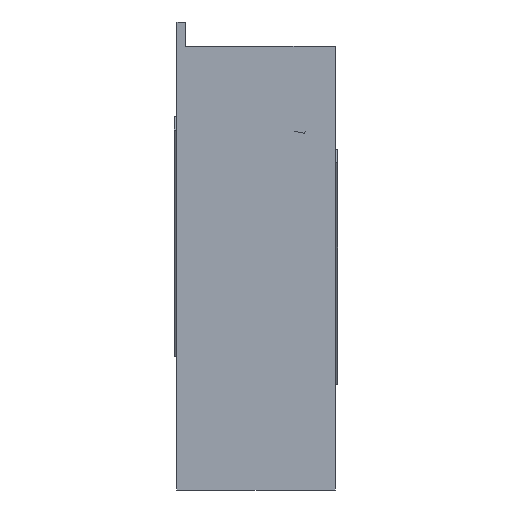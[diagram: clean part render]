
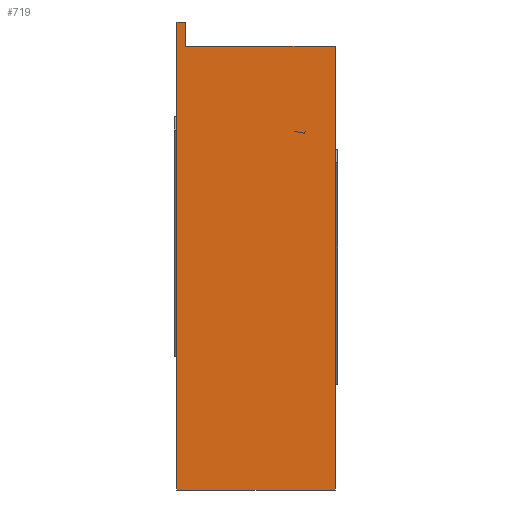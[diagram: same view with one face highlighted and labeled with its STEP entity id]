
A CAD part, left-side view. The second image highlights one B-rep face of the part: STEP entity #719.
In plain terms, the highlighted planar face has unit normal (-1, 0, 0).
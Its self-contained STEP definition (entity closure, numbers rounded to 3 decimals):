
#99 = PLANE('',#100);
#100 = AXIS2_PLACEMENT_3D('',#101,#102,#103);
#101 = CARTESIAN_POINT('',(0.,-8.99,0.));
#102 = DIRECTION('',(-0.,1.,0.));
#103 = DIRECTION('',(0.,0.,1.));
#155 = PLANE('',#156);
#156 = AXIS2_PLACEMENT_3D('',#157,#158,#159);
#157 = CARTESIAN_POINT('',(111.802,44.746,
    65.195));
#158 = DIRECTION('',(0.,-1.,0.));
#159 = DIRECTION('',(1.,0.,0.));
#405 = PLANE('',#406);
#406 = AXIS2_PLACEMENT_3D('',#407,#408,#409);
#407 = CARTESIAN_POINT('',(0.,-8.99,159.735));
#408 = DIRECTION('',(0.,0.,1.));
#409 = DIRECTION('',(1.,0.,-0.));
#648 = EDGE_CURVE('',#649,#651,#653,.T.);
#649 = VERTEX_POINT('',#650);
#650 = CARTESIAN_POINT('',(0.,-8.99,159.735));
#651 = VERTEX_POINT('',#652);
#652 = CARTESIAN_POINT('',(0.,44.746,159.735));
#653 = SURFACE_CURVE('',#654,(#658,#665),.PCURVE_S1.);
#654 = LINE('',#655,#656);
#655 = CARTESIAN_POINT('',(0.,-8.99,159.735));
#656 = VECTOR('',#657,1.);
#657 = DIRECTION('',(-0.,1.,0.));
#658 = PCURVE('',#405,#659);
#659 = DEFINITIONAL_REPRESENTATION('',(#660),#664);
#660 = LINE('',#661,#662);
#661 = CARTESIAN_POINT('',(0.,0.));
#662 = VECTOR('',#663,1.);
#663 = DIRECTION('',(0.,1.));
#664 = ( GEOMETRIC_REPRESENTATION_CONTEXT(2) 
PARAMETRIC_REPRESENTATION_CONTEXT() REPRESENTATION_CONTEXT('2D SPACE',''
  ) );
#665 = PCURVE('',#666,#671);
#666 = PLANE('',#667);
#667 = AXIS2_PLACEMENT_3D('',#668,#669,#670);
#668 = CARTESIAN_POINT('',(0.,44.746,168.491));
#669 = DIRECTION('',(-1.,-0.,-0.));
#670 = DIRECTION('',(0.,0.,-1.));
#671 = DEFINITIONAL_REPRESENTATION('',(#672),#676);
#672 = LINE('',#673,#674);
#673 = CARTESIAN_POINT('',(8.756,53.735));
#674 = VECTOR('',#675,1.);
#675 = DIRECTION('',(0.,-1.));
#676 = ( GEOMETRIC_REPRESENTATION_CONTEXT(2) 
PARAMETRIC_REPRESENTATION_CONTEXT() REPRESENTATION_CONTEXT('2D SPACE',''
  ) );
#719 = ADVANCED_FACE('',(#720),#666,.T.);
#720 = FACE_BOUND('',#721,.T.);
#721 = EDGE_LOOP('',(#722,#745,#746,#769,#797,#825));
#722 = ORIENTED_EDGE('',*,*,#723,.T.);
#723 = EDGE_CURVE('',#724,#649,#726,.T.);
#724 = VERTEX_POINT('',#725);
#725 = CARTESIAN_POINT('',(0.,-8.99,0.));
#726 = SURFACE_CURVE('',#727,(#731,#738),.PCURVE_S1.);
#727 = LINE('',#728,#729);
#728 = CARTESIAN_POINT('',(0.,-8.99,0.));
#729 = VECTOR('',#730,1.);
#730 = DIRECTION('',(0.,0.,1.));
#731 = PCURVE('',#666,#732);
#732 = DEFINITIONAL_REPRESENTATION('',(#733),#737);
#733 = LINE('',#734,#735);
#734 = CARTESIAN_POINT('',(168.491,53.735));
#735 = VECTOR('',#736,1.);
#736 = DIRECTION('',(-1.,0.));
#737 = ( GEOMETRIC_REPRESENTATION_CONTEXT(2) 
PARAMETRIC_REPRESENTATION_CONTEXT() REPRESENTATION_CONTEXT('2D SPACE',''
  ) );
#738 = PCURVE('',#99,#739);
#739 = DEFINITIONAL_REPRESENTATION('',(#740),#744);
#740 = LINE('',#741,#742);
#741 = CARTESIAN_POINT('',(0.,0.));
#742 = VECTOR('',#743,1.);
#743 = DIRECTION('',(1.,0.));
#744 = ( GEOMETRIC_REPRESENTATION_CONTEXT(2) 
PARAMETRIC_REPRESENTATION_CONTEXT() REPRESENTATION_CONTEXT('2D SPACE',''
  ) );
#745 = ORIENTED_EDGE('',*,*,#648,.T.);
#746 = ORIENTED_EDGE('',*,*,#747,.F.);
#747 = EDGE_CURVE('',#748,#651,#750,.T.);
#748 = VERTEX_POINT('',#749);
#749 = CARTESIAN_POINT('',(0.,44.746,168.491));
#750 = SURFACE_CURVE('',#751,(#755,#762),.PCURVE_S1.);
#751 = LINE('',#752,#753);
#752 = CARTESIAN_POINT('',(0.,44.746,168.491));
#753 = VECTOR('',#754,1.);
#754 = DIRECTION('',(0.,0.,-1.));
#755 = PCURVE('',#666,#756);
#756 = DEFINITIONAL_REPRESENTATION('',(#757),#761);
#757 = LINE('',#758,#759);
#758 = CARTESIAN_POINT('',(0.,0.));
#759 = VECTOR('',#760,1.);
#760 = DIRECTION('',(1.,0.));
#761 = ( GEOMETRIC_REPRESENTATION_CONTEXT(2) 
PARAMETRIC_REPRESENTATION_CONTEXT() REPRESENTATION_CONTEXT('2D SPACE',''
  ) );
#762 = PCURVE('',#155,#763);
#763 = DEFINITIONAL_REPRESENTATION('',(#764),#768);
#764 = LINE('',#765,#766);
#765 = CARTESIAN_POINT('',(-111.802,103.296));
#766 = VECTOR('',#767,1.);
#767 = DIRECTION('',(0.,-1.));
#768 = ( GEOMETRIC_REPRESENTATION_CONTEXT(2) 
PARAMETRIC_REPRESENTATION_CONTEXT() REPRESENTATION_CONTEXT('2D SPACE',''
  ) );
#769 = ORIENTED_EDGE('',*,*,#770,.T.);
#770 = EDGE_CURVE('',#748,#771,#773,.T.);
#771 = VERTEX_POINT('',#772);
#772 = CARTESIAN_POINT('',(0.,47.946,168.491));
#773 = SURFACE_CURVE('',#774,(#778,#785),.PCURVE_S1.);
#774 = LINE('',#775,#776);
#775 = CARTESIAN_POINT('',(0.,44.746,168.491));
#776 = VECTOR('',#777,1.);
#777 = DIRECTION('',(-0.,1.,-0.));
#778 = PCURVE('',#666,#779);
#779 = DEFINITIONAL_REPRESENTATION('',(#780),#784);
#780 = LINE('',#781,#782);
#781 = CARTESIAN_POINT('',(0.,0.));
#782 = VECTOR('',#783,1.);
#783 = DIRECTION('',(0.,-1.));
#784 = ( GEOMETRIC_REPRESENTATION_CONTEXT(2) 
PARAMETRIC_REPRESENTATION_CONTEXT() REPRESENTATION_CONTEXT('2D SPACE',''
  ) );
#785 = PCURVE('',#786,#791);
#786 = PLANE('',#787);
#787 = AXIS2_PLACEMENT_3D('',#788,#789,#790);
#788 = CARTESIAN_POINT('',(254.178,44.746,
    75.978));
#789 = DIRECTION('',(0.342,0.,0.94));
#790 = DIRECTION('',(-0.94,0.,0.342));
#791 = DEFINITIONAL_REPRESENTATION('',(#792),#796);
#792 = LINE('',#793,#794);
#793 = CARTESIAN_POINT('',(270.49,0.));
#794 = VECTOR('',#795,1.);
#795 = DIRECTION('',(0.,-1.));
#796 = ( GEOMETRIC_REPRESENTATION_CONTEXT(2) 
PARAMETRIC_REPRESENTATION_CONTEXT() REPRESENTATION_CONTEXT('2D SPACE',''
  ) );
#797 = ORIENTED_EDGE('',*,*,#798,.T.);
#798 = EDGE_CURVE('',#771,#799,#801,.T.);
#799 = VERTEX_POINT('',#800);
#800 = CARTESIAN_POINT('',(0.,47.946,0.));
#801 = SURFACE_CURVE('',#802,(#806,#813),.PCURVE_S1.);
#802 = LINE('',#803,#804);
#803 = CARTESIAN_POINT('',(0.,47.946,168.491));
#804 = VECTOR('',#805,1.);
#805 = DIRECTION('',(0.,0.,-1.));
#806 = PCURVE('',#666,#807);
#807 = DEFINITIONAL_REPRESENTATION('',(#808),#812);
#808 = LINE('',#809,#810);
#809 = CARTESIAN_POINT('',(0.,-3.2));
#810 = VECTOR('',#811,1.);
#811 = DIRECTION('',(1.,0.));
#812 = ( GEOMETRIC_REPRESENTATION_CONTEXT(2) 
PARAMETRIC_REPRESENTATION_CONTEXT() REPRESENTATION_CONTEXT('2D SPACE',''
  ) );
#813 = PCURVE('',#814,#819);
#814 = PLANE('',#815);
#815 = AXIS2_PLACEMENT_3D('',#816,#817,#818);
#816 = CARTESIAN_POINT('',(111.802,47.946,
    65.195));
#817 = DIRECTION('',(0.,-1.,0.));
#818 = DIRECTION('',(1.,0.,0.));
#819 = DEFINITIONAL_REPRESENTATION('',(#820),#824);
#820 = LINE('',#821,#822);
#821 = CARTESIAN_POINT('',(-111.802,103.296));
#822 = VECTOR('',#823,1.);
#823 = DIRECTION('',(0.,-1.));
#824 = ( GEOMETRIC_REPRESENTATION_CONTEXT(2) 
PARAMETRIC_REPRESENTATION_CONTEXT() REPRESENTATION_CONTEXT('2D SPACE',''
  ) );
#825 = ORIENTED_EDGE('',*,*,#826,.T.);
#826 = EDGE_CURVE('',#799,#724,#827,.T.);
#827 = SURFACE_CURVE('',#828,(#832,#839),.PCURVE_S1.);
#828 = LINE('',#829,#830);
#829 = CARTESIAN_POINT('',(0.,47.946,0.));
#830 = VECTOR('',#831,1.);
#831 = DIRECTION('',(0.,-1.,0.));
#832 = PCURVE('',#666,#833);
#833 = DEFINITIONAL_REPRESENTATION('',(#834),#838);
#834 = LINE('',#835,#836);
#835 = CARTESIAN_POINT('',(168.491,-3.2));
#836 = VECTOR('',#837,1.);
#837 = DIRECTION('',(0.,1.));
#838 = ( GEOMETRIC_REPRESENTATION_CONTEXT(2) 
PARAMETRIC_REPRESENTATION_CONTEXT() REPRESENTATION_CONTEXT('2D SPACE',''
  ) );
#839 = PCURVE('',#840,#845);
#840 = PLANE('',#841);
#841 = AXIS2_PLACEMENT_3D('',#842,#843,#844);
#842 = CARTESIAN_POINT('',(0.,-8.99,0.));
#843 = DIRECTION('',(0.,0.,1.));
#844 = DIRECTION('',(1.,0.,-0.));
#845 = DEFINITIONAL_REPRESENTATION('',(#846),#850);
#846 = LINE('',#847,#848);
#847 = CARTESIAN_POINT('',(0.,56.935));
#848 = VECTOR('',#849,1.);
#849 = DIRECTION('',(0.,-1.));
#850 = ( GEOMETRIC_REPRESENTATION_CONTEXT(2) 
PARAMETRIC_REPRESENTATION_CONTEXT() REPRESENTATION_CONTEXT('2D SPACE',''
  ) );
